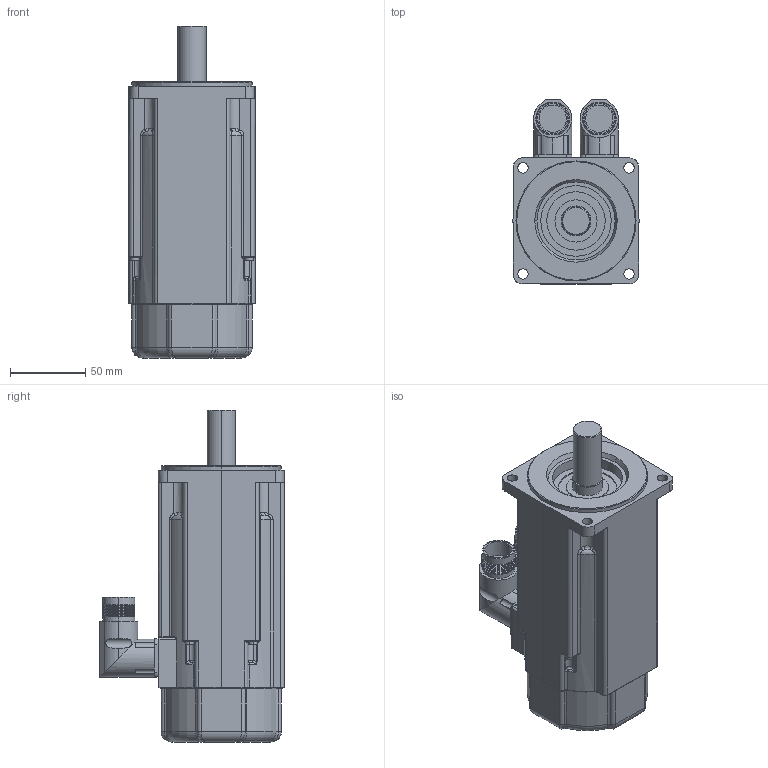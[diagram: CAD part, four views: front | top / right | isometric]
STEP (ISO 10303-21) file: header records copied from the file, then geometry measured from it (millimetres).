
FILE_DESCRIPTION (( 'STEP AP214' ), '1' );
FILE_NAME ('MR7742-Ux-Nxx-G01-A0D-MS-P0.stp', '2009-04-08T13:46:00', ( 'SysAdmin' ), ( 'SolidWorks' ), 'SwSTEP 2.0', 'SolidWorks 2009', '' );
FILE_SCHEMA (( 'AUTOMOTIVE_DESIGN' ));
Length unit declared in the file: millimetre
Products named in the file (1): MR7742-Ux-Nxx-G01-A0D-MS-P0
Bounding box: 84 x 123 x 221.3 mm (x, y, z)
Volume: 1133321 mm3; surface area: 85733.3 mm2
Topology: 1 solids, 1 shells, 578 faces, 1382 edges, 804 vertices
Faces by surface type: cylinder 202, plane 120, cone 104, torus 88, bspline 62, sphere 2
Entity records: 26257 total; most frequent: CARTESIAN_POINT 7389, ORIENTED_EDGE 2716, DIRECTION 2712, EDGE_CURVE 1358, AXIS2_PLACEMENT_3D 1155, VERTEX_POINT 804, CIRCLE 638, EDGE_LOOP 608
